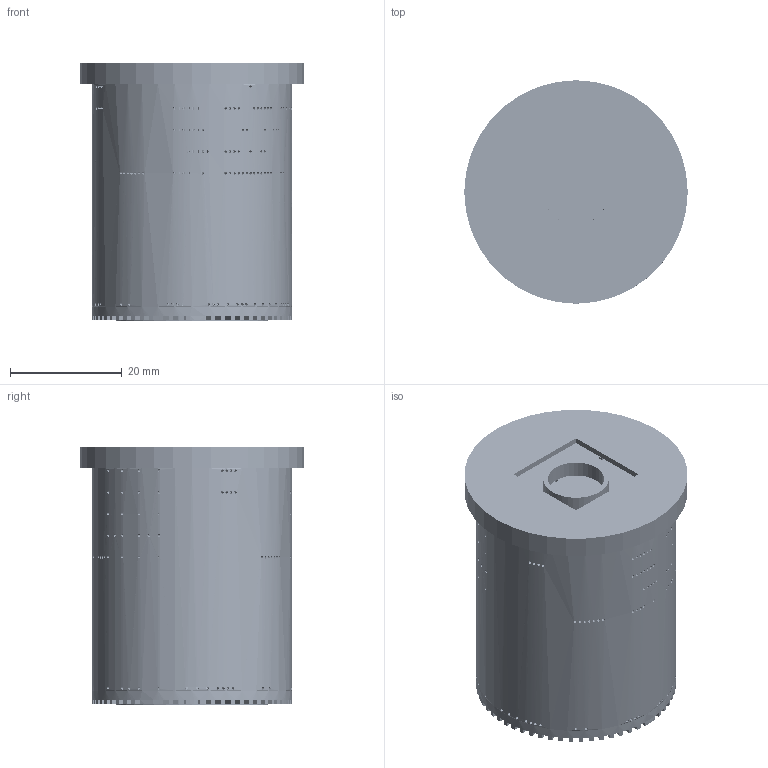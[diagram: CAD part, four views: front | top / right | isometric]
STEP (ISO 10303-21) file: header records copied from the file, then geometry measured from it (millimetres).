
FILE_DESCRIPTION(('Open CASCADE Model'),'2;1');
FILE_NAME('Open CASCADE Shape Model','2026-11-25T16:09:56',('Author'),( 'Open CASCADE'),'Open CASCADE STEP processor 7.8','Open CASCADE 7.8' ,'Unknown');
FILE_SCHEMA(('AUTOMOTIVE_DESIGN { 1 0 10303 214 1 1 1 1 }'));
Length unit declared in the file: millimetre
Products named in the file (17): 4517faee-e8e2-11f1-9939-3ea5e9b9197e; aft_end_board; battery_holder; battery_floor_plate; activation_interface; spacer_activation_interface_wakeup_board; wakeup_board; spacer_wakeup_board_power_board; power_board; spacer_power_board_companion_compute; companion_compute; spacer_companion_compute_qpd_module; qpd_module; core_sleeve; nose_cap; optic_insert; aft_end_cap
Assembly tree (16 placements, depth 2):
  4517faee-e8e2-11f1-9939-3ea5e9b9197e
    aft_end_board
    battery_holder
    battery_floor_plate
    activation_interface
    spacer_activation_interface_wakeup_board
    wakeup_board
    spacer_wakeup_board_power_board
    power_board
    spacer_power_board_companion_compute
    companion_compute
    spacer_companion_compute_qpd_module
    qpd_module
    core_sleeve
    nose_cap
    optic_insert
    aft_end_cap
Bounding box: 40 x 40 x 46.25 mm (x, y, z)
Volume: 30248.8 mm3; surface area: 46090.7 mm2
Topology: 1877 solids, 1877 shells, 26915 faces, 68661 edges, 45308 vertices
Faces by surface type: plane 18475, cylinder 7658, sphere 650, bspline 80, extrusion 32, cone 12, torus 8
Full cylindrical faces by diameter (mm): 0.125 x1, 0.163 x5, 0.188 x1, 0.2 x4, 0.25 x3, 0.3 x9, 0.5 x260, 0.625 x3, 0.7 x6, 0.8 x3, 0.812 x1, 1 x4, 1.2 x6, 1.25 x1, 1.55 x3, 1.6 x3, 1.8 x22, 2.2 x15, 3 x6, 3.5 x3, 10.1 x1, 11.7 x1, 27.2 x2, 27.8 x1, 34.2 x1, 35.8 x2, 37.88 x1, 38 x1, 40 x1
Entity records: 1745885 total; most frequent: CARTESIAN_POINT 385262, DIRECTION 257579, VECTOR 167345, LINE 167313, ORIENTED_EDGE 133672, PCURVE 133670, DEFINITIONAL_REPRESENTATION 133670, EDGE_CURVE 66835
